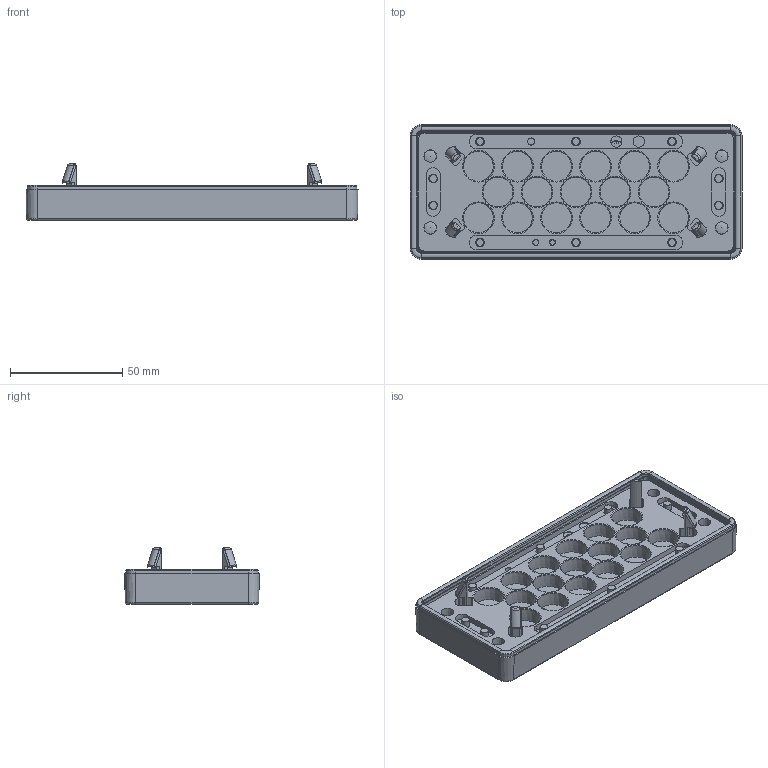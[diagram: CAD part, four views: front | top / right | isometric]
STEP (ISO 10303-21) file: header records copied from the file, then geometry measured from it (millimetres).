
FILE_DESCRIPTION(/* description */ (''),/* implementation_level */ '2;1');
FILE_NAME(/* name */ 'C:\SapWorkDir\Inventor\MP1\ConvertTempPath\87_16_121488_00_A_220620_KDP-X 24-17 ZSB - Blech 1,5-2,0.stp',/* time_stamp */ '2022-06-21T07:30:51+02:00',/* author */ ('BAUER'),/* organization */ (''),/* preprocessor_version */ 'ST-DEVELOPER v16.13',/* originating_system */ 'Autodesk Inventor 2018',/* authorisation */ '');
FILE_SCHEMA (('AUTOMOTIVE_DESIGN { 1 0 10303 214 3 1 1 }'));
Products named in the file (5): 121488; 121384; 105847_MPS_3F1; 105845_MPS_3F1; 104104_MPS_3F1
Assembly tree (4 placements, depth 2):
  121488
    121384
    105847_MPS_3F1
    105845_MPS_3F1
    104104_MPS_3F1
Bounding box: 148 x 60 x 25 mm (x, y, z)
Volume: 73363.8 mm3; surface area: 71817.8 mm2
Topology: 4 solids, 4 shells, 3518 faces, 8865 edges, 5274 vertices
Faces by surface type: plane 1312, cylinder 701, bspline 677, cone 410, torus 258, sphere 160
Full cylindrical faces by diameter (mm): 2.5 x2, 2.6 x2, 3 x1, 3.1 x1, 3.6 x10, 5 x2, 5.5 x8, 6.5 x4, 7.5 x4
Entity records: 117237 total; most frequent: CARTESIAN_POINT 35274, DIRECTION 16947, ORIENTED_EDGE 16912, EDGE_CURVE 8456, AXIS2_PLACEMENT_3D 6185, VERTEX_POINT 5266, LINE 4577, VECTOR 4577
